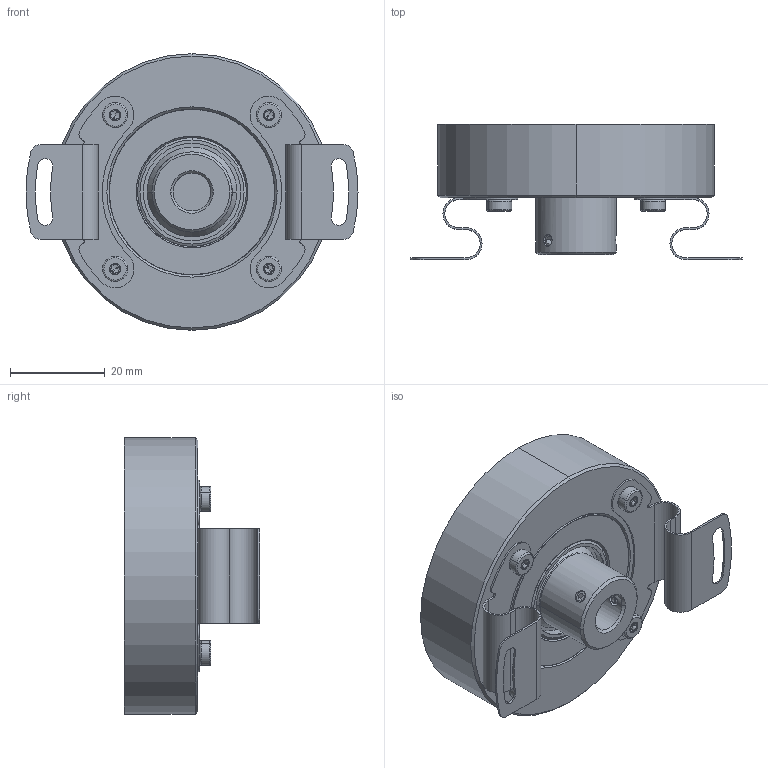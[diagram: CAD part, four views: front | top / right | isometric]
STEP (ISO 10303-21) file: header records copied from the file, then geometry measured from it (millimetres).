
FILE_DESCRIPTION (( 'STEP AP214' ), '1' );
FILE_NAME ('drawing ucd-x8ss-q5b-n.STEP', '2017-03-21T16:31:32', ( '' ), ( '' ), 'SwSTEP 2.0', 'SolidWorks 2015', '' );
FILE_SCHEMA (( 'AUTOMOTIVE_DESIGN' ));
Length unit declared in the file: millimetre
Products named in the file (1): drawing ucd-x8ss-q5b-n
Bounding box: 70.2 x 28.6 x 58.5 mm (x, y, z)
Volume: 42921.2 mm3; surface area: 28406.5 mm2
Topology: 27 solids, 27 shells, 1210 faces, 2916 edges, 1763 vertices
Faces by surface type: cone 350, plane 330, cylinder 264, bspline 226, torus 40
Entity records: 59272 total; most frequent: CARTESIAN_POINT 18762, ORIENTED_EDGE 5700, DIRECTION 5336, EDGE_CURVE 2850, AXIS2_PLACEMENT_3D 1977, VERTEX_POINT 1763, LINE 1382, VECTOR 1382
